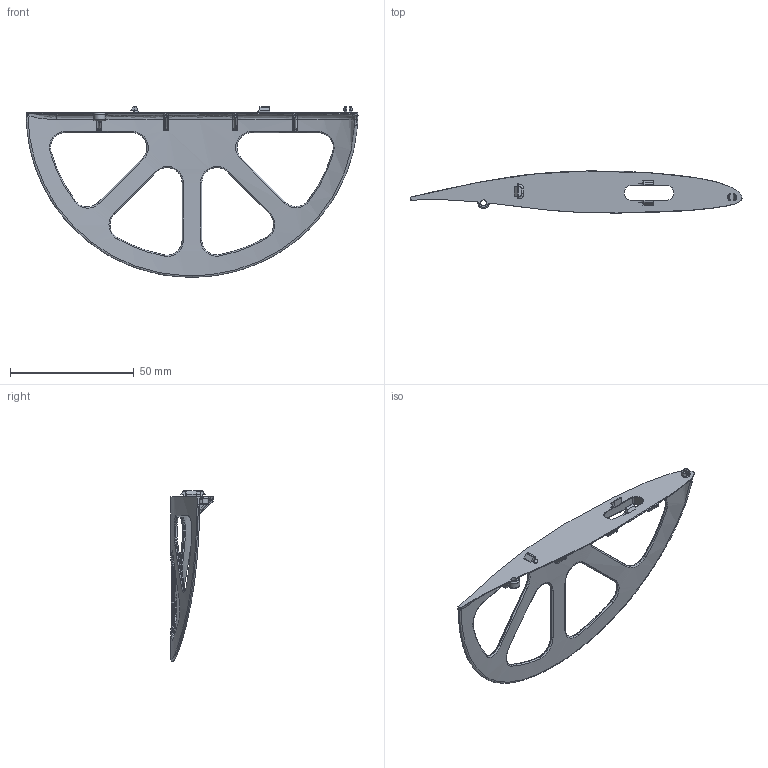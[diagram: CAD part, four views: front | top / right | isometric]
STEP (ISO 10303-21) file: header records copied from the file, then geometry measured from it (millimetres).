
FILE_DESCRIPTION (( 'STEP AP203' ), '1' );
FILE_NAME ('Mirror06-12-007-00.STEP', '2019-02-25T09:14:00', ( '' ), ( '' ), 'SwSTEP 2.0', 'SolidWorks 2014', '' );
FILE_SCHEMA (( 'CONFIG_CONTROL_DESIGN' ));
Length unit declared in the file: millimetre
Products named in the file (1): Mirror06-12-007-00
Bounding box: 134.04 x 17.01 x 68.88 mm (x, y, z)
Volume: 6099.2 mm3; surface area: 11805.2 mm2
Topology: 1 solids, 1 shells, 298 faces, 724 edges, 421 vertices
Faces by surface type: bspline 117, cylinder 82, plane 67, torus 23, sphere 6, cone 3
Entity records: 14613 total; most frequent: CARTESIAN_POINT 8533, ORIENTED_EDGE 1428, DIRECTION 1008, EDGE_CURVE 714, VERTEX_POINT 420, AXIS2_PLACEMENT_3D 398, EDGE_LOOP 312, ADVANCED_FACE 298
